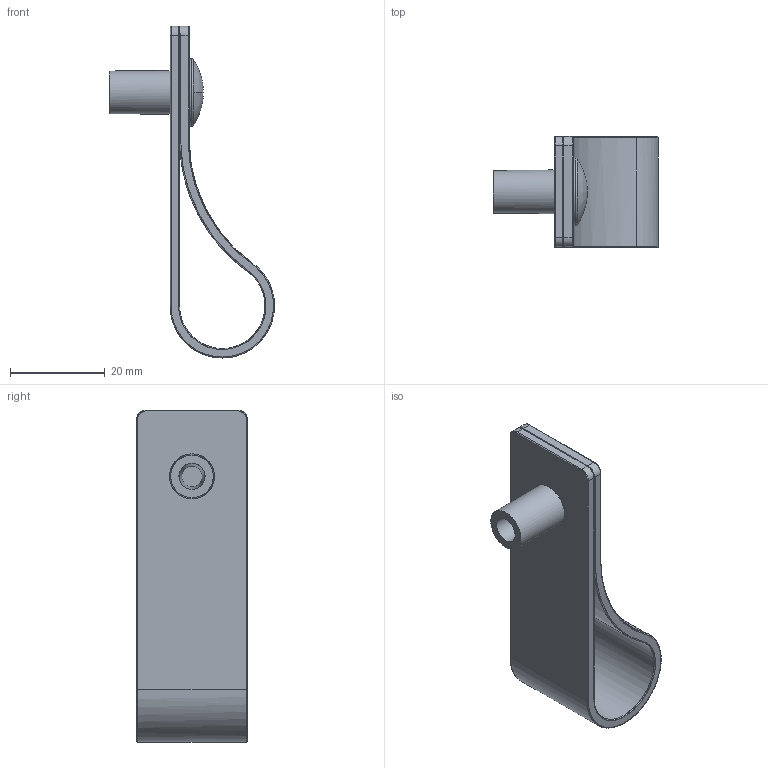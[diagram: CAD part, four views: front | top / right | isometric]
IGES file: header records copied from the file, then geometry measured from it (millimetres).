
Start section: C
Global section: file name: 8254-70.igs; native system: By Siemens PLM Incorporated; preprocessor: XPlus GENERIC/IGES 16.0.42; author: Author; organization: Title; date: 20231113.100728; units: millimetre
Bounding box: 34.79 x 23.3 x 70.01 mm (x, y, z)
Surface area: 8813.3 mm2 (no closed solid volume)
Topology: 0 solids, 0 shells, 55 faces, 271 edges, 270 vertices
Faces by surface type: bspline 55
